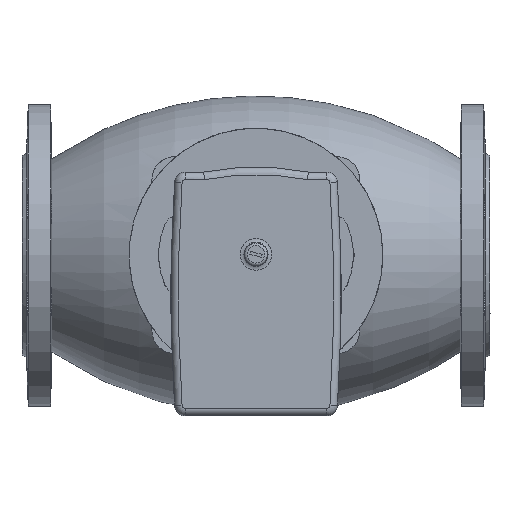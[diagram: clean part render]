
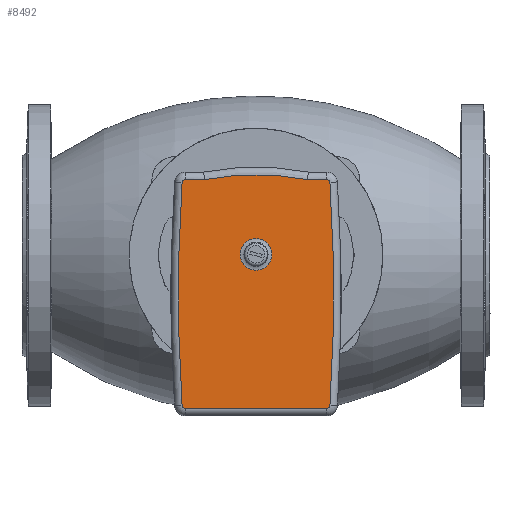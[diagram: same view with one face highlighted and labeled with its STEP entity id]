
A CAD part, top view. The second image highlights one B-rep face of the part: STEP entity #8492.
In plain terms, the highlighted planar face has unit normal (0, 0, 1).
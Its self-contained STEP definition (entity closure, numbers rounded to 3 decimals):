
#279=LINE('',#11574,#690);
#280=LINE('',#11578,#691);
#281=LINE('',#11586,#692);
#690=VECTOR('',#9736,1000.);
#691=VECTOR('',#9739,1000.);
#692=VECTOR('',#9746,1000.);
#1293=ORIENTED_EDGE('',*,*,#2955,.T.);
#1294=ORIENTED_EDGE('',*,*,#2956,.F.);
#1295=ORIENTED_EDGE('',*,*,#2957,.F.);
#1296=ORIENTED_EDGE('',*,*,#2958,.F.);
#1297=ORIENTED_EDGE('',*,*,#2959,.F.);
#1298=ORIENTED_EDGE('',*,*,#2960,.F.);
#1299=ORIENTED_EDGE('',*,*,#2961,.F.);
#1300=ORIENTED_EDGE('',*,*,#2962,.F.);
#1301=ORIENTED_EDGE('',*,*,#2963,.F.);
#1302=ORIENTED_EDGE('',*,*,#2964,.F.);
#1303=ORIENTED_EDGE('',*,*,#2965,.F.);
#2955=EDGE_CURVE('',#3788,#3788,#4340,.T.);
#2956=EDGE_CURVE('',#3789,#3790,#4341,.T.);
#2957=EDGE_CURVE('',#3791,#3789,#279,.T.);
#2958=EDGE_CURVE('',#3792,#3791,#4342,.T.);
#2959=EDGE_CURVE('',#3793,#3792,#280,.T.);
#2960=EDGE_CURVE('',#3794,#3793,#4343,.T.);
#2961=EDGE_CURVE('',#3795,#3794,#4344,.T.);
#2962=EDGE_CURVE('',#3796,#3795,#4345,.T.);
#2963=EDGE_CURVE('',#3797,#3796,#281,.T.);
#2964=EDGE_CURVE('',#3798,#3797,#4346,.T.);
#2965=EDGE_CURVE('',#3790,#3798,#4347,.T.);
#3788=VERTEX_POINT('',#11569);
#3789=VERTEX_POINT('',#11572);
#3790=VERTEX_POINT('',#11573);
#3791=VERTEX_POINT('',#11575);
#3792=VERTEX_POINT('',#11577);
#3793=VERTEX_POINT('',#11579);
#3794=VERTEX_POINT('',#11581);
#3795=VERTEX_POINT('',#11583);
#3796=VERTEX_POINT('',#11585);
#3797=VERTEX_POINT('',#11587);
#3798=VERTEX_POINT('',#11589);
#4340=CIRCLE('',#8903,10.521);
#4341=CIRCLE('',#8905,1.964);
#4342=CIRCLE('',#8906,169.964);
#4343=CIRCLE('',#8907,1.964);
#4344=CIRCLE('',#8908,1096.964);
#4345=CIRCLE('',#8909,1.964);
#4346=CIRCLE('',#8910,1.964);
#4347=CIRCLE('',#8911,1096.964);
#4681=EDGE_LOOP('',(#1293));
#4682=EDGE_LOOP('',(#1294,#1295,#1296,#1297,#1298,#1299,#1300,#1301,#1302,
#1303));
#5185=FACE_BOUND('',#4681,.T.);
#5186=FACE_BOUND('',#4682,.T.);
#5677=PLANE('',#8904);
#8492=ADVANCED_FACE('',(#5185,#5186),#5677,.F.);
#8903=AXIS2_PLACEMENT_3D('',#11568,#9730,#9731);
#8904=AXIS2_PLACEMENT_3D('',#11570,#9732,#9733);
#8905=AXIS2_PLACEMENT_3D('',#11571,#9734,#9735);
#8906=AXIS2_PLACEMENT_3D('',#11576,#9737,#9738);
#8907=AXIS2_PLACEMENT_3D('',#11580,#9740,#9741);
#8908=AXIS2_PLACEMENT_3D('',#11582,#9742,#9743);
#8909=AXIS2_PLACEMENT_3D('',#11584,#9744,#9745);
#8910=AXIS2_PLACEMENT_3D('',#11588,#9747,#9748);
#8911=AXIS2_PLACEMENT_3D('',#11590,#9749,#9750);
#9730=DIRECTION('',(0.,0.,-1.));
#9731=DIRECTION('',(0.,1.,0.));
#9732=DIRECTION('',(0.,0.,-1.));
#9733=DIRECTION('',(0.,1.,0.));
#9734=DIRECTION('',(0.,0.,-1.));
#9735=DIRECTION('',(0.,1.,0.));
#9736=DIRECTION('',(1.,0.,0.));
#9737=DIRECTION('',(0.,0.,-1.));
#9738=DIRECTION('',(0.,1.,0.));
#9739=DIRECTION('',(1.,0.,0.));
#9740=DIRECTION('',(0.,0.,-1.));
#9741=DIRECTION('',(0.,1.,0.));
#9742=DIRECTION('',(0.,0.,-1.));
#9743=DIRECTION('',(0.,1.,0.));
#9744=DIRECTION('',(0.,0.,-1.));
#9745=DIRECTION('',(0.,1.,0.));
#9746=DIRECTION('',(-1.,0.,0.));
#9747=DIRECTION('',(0.,0.,-1.));
#9748=DIRECTION('',(0.,1.,0.));
#9749=DIRECTION('',(0.,0.,-1.));
#9750=DIRECTION('',(0.,1.,0.));
#11568=CARTESIAN_POINT('',(0.,0.,368.583));
#11569=CARTESIAN_POINT('',(0.,10.521,368.583));
#11570=CARTESIAN_POINT('',(0.,0.,368.583));
#11571=CARTESIAN_POINT('',(47.,47.508,368.583));
#11572=CARTESIAN_POINT('',(47.,49.472,368.583));
#11573=CARTESIAN_POINT('',(48.96,47.64,368.583));
#11574=CARTESIAN_POINT('',(34.599,49.472,368.583));
#11575=CARTESIAN_POINT('',(34.096,49.472,368.583));
#11576=CARTESIAN_POINT('',(0.,-117.037,368.583));
#11577=CARTESIAN_POINT('',(-34.096,49.472,368.583));
#11578=CARTESIAN_POINT('',(-47.,49.472,368.583));
#11579=CARTESIAN_POINT('',(-47.,49.472,368.583));
#11580=CARTESIAN_POINT('',(-47.,47.508,368.583));
#11581=CARTESIAN_POINT('',(-48.96,47.64,368.583));
#11582=CARTESIAN_POINT('',(1045.513,-26.246,368.583));
#11583=CARTESIAN_POINT('',(-48.96,-100.132,368.583));
#11584=CARTESIAN_POINT('',(-47.,-100.,368.583));
#11585=CARTESIAN_POINT('',(-47.,-101.964,368.583));
#11586=CARTESIAN_POINT('',(47.,-101.964,368.583));
#11587=CARTESIAN_POINT('',(47.,-101.964,368.583));
#11588=CARTESIAN_POINT('',(47.,-100.,368.583));
#11589=CARTESIAN_POINT('',(48.96,-100.132,368.583));
#11590=CARTESIAN_POINT('',(-1045.513,-26.246,368.583));
